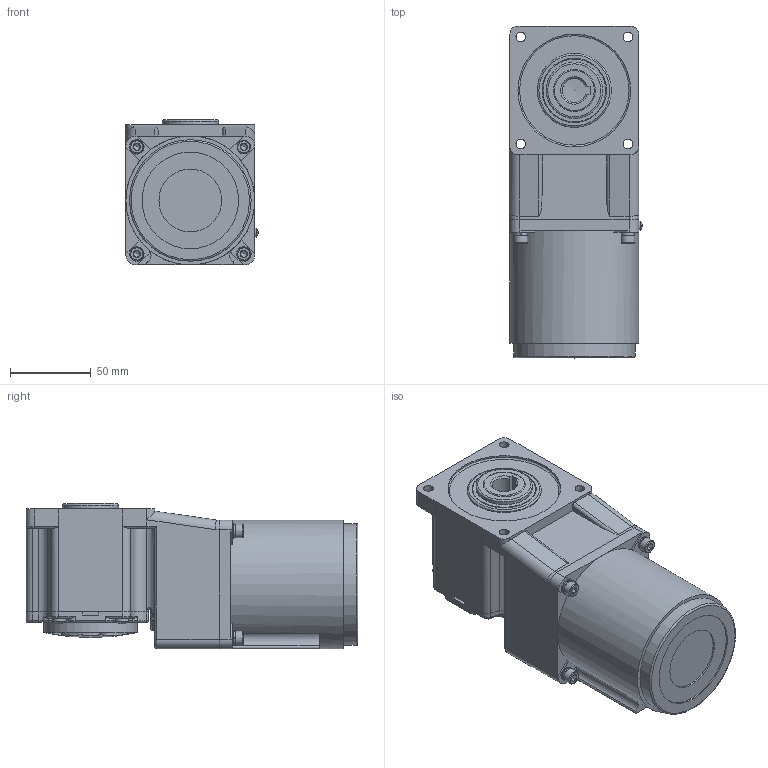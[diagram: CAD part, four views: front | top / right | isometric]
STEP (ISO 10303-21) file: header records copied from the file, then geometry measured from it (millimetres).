
FILE_DESCRIPTION(/* description */ (''),/* implementation_level */ '2;1');
FILE_NAME(/* name */ '80+中空直角-普通-25W.stp',/* time_stamp */ '2022-09-27T10:27:00+08:00',/* author */ (''),/* organization */ (''),/* preprocessor_version */ 'ST-DEVELOPER v16.7',/* originating_system */ 'SIEMENS PLM Software NX 1899',/* authorisation */ '');
FILE_SCHEMA (('AP203_CONFIGURATION_CONTROLLED_3D_DESIGN_OF_MECHANICAL_PARTS_AND_ASSEMBLIES_MIM_LF { 1 0 10303 403 2 1 2}'));
Length unit declared in the file: millimetre
Products named in the file (1): yf1815905F60ugg0
Bounding box: 82.09 x 206 x 90.5 mm (x, y, z)
Volume: 1109245.5 mm3; surface area: 115398.7 mm2
Topology: 16 solids, 16 shells, 667 faces, 1536 edges, 937 vertices
Faces by surface type: plane 331, cylinder 204, torus 60, cone 48, sphere 12, bspline 12
Full cylindrical faces by diameter (mm): 2.5 x2, 3.5 x2, 4.2 x4, 4.826 x4, 5 x8, 5.3 x4, 5.6 x1, 6 x8, 8 x4, 8.5 x4, 9 x4, 25 x1, 26 x2, 35 x1, 39 x1, 40 x2, 40.5 x1, 46 x1, 52 x1, 52.5 x1, 56 x1, 58 x1, 60 x1, 70 x1, 75.5 x1, 76 x2, 80 x1
Entity records: 19924 total; most frequent: CARTESIAN_POINT 4095, DIRECTION 3134, ORIENTED_EDGE 2732, EDGE_CURVE 1366, AXIS2_PLACEMENT_3D 1250, VERTEX_POINT 893, EDGE_LOOP 851, ADVANCED_FACE 667
